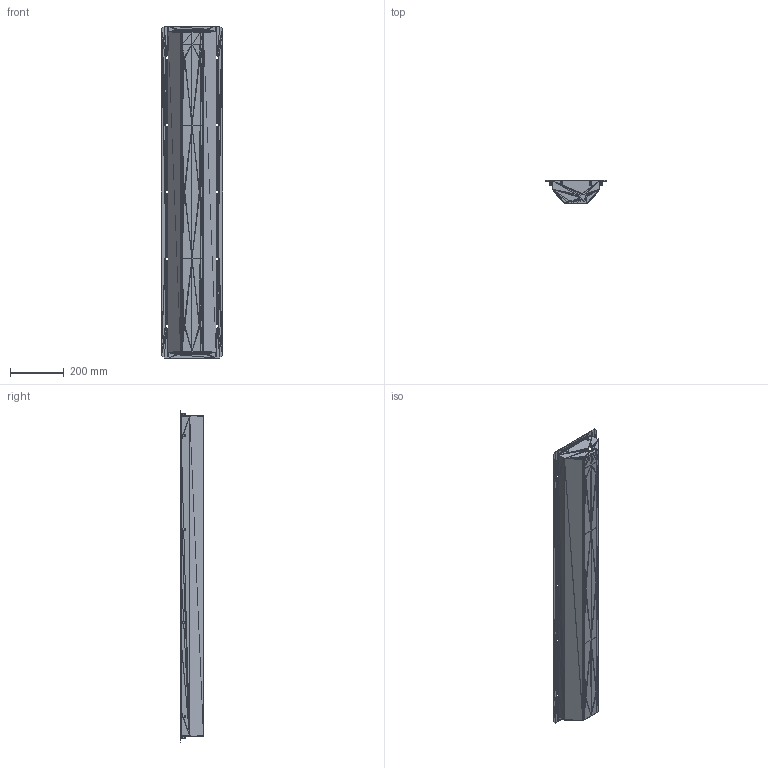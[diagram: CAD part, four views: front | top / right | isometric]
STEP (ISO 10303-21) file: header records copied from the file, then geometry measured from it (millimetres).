
FILE_DESCRIPTION((''),'2;1');
FILE_NAME('022213', '2025-08-11T12:49:56', (''), (''), 'ImageToStl.com STEP Converter','', '');
FILE_SCHEMA(('AUTOMOTIVE_DESIGN_CC2'));
Length unit declared in the file: metre
Products named in the file (1): product0
Bounding box: 229 x 86.9 x 1240 mm (x, y, z)
Surface area: 890409.6 mm2 (no closed solid volume)
Topology: 0 solids, 5650 shells, 5650 faces, 16950 edges, 2761 vertices
Faces by surface type: plane 5650
Entity records: 129850 total; most frequent: DIRECTION 28252, ORIENTED_EDGE 16950, EDGE_CURVE 16950, LINE 16950, VECTOR 16950, AXIS2_PLACEMENT_3D 5651, FACE_SURFACE 5650, PLANE 5650
